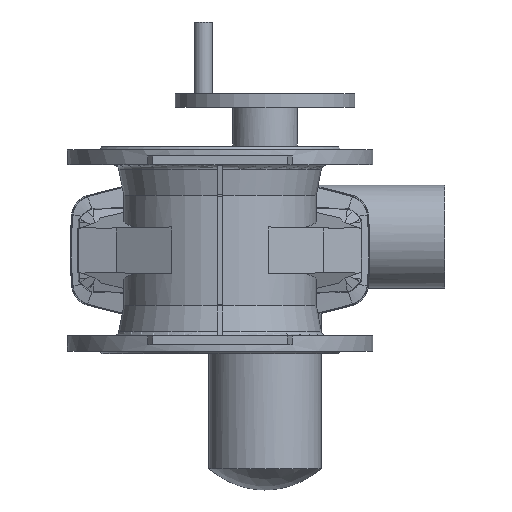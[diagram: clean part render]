
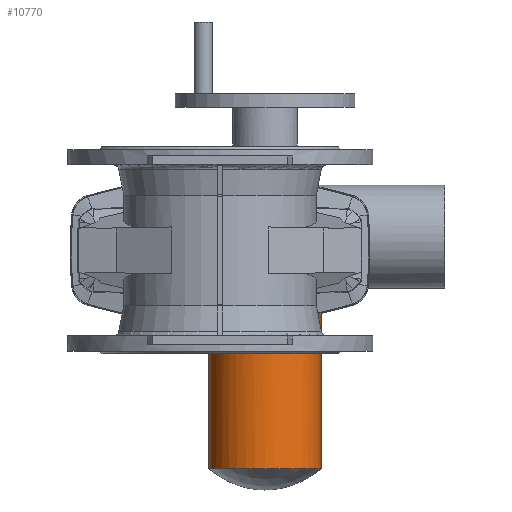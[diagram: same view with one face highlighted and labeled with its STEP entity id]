
A CAD part, front view. The second image highlights one B-rep face of the part: STEP entity #10770.
In plain terms, the highlighted cylindrical face has radius 62.5 mm (diameter 125 mm), a full revolution.
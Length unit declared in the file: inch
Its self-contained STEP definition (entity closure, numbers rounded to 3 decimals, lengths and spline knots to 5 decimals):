
#725 = CIRCLE ( 'NONE', #10399, 2.46063 ) ;
#734 = CIRCLE ( 'NONE', #10404, 2.46063 ) ;
#1066 = CARTESIAN_POINT ( 'NONE',  ( 0.66926, 23.19202, -2.36787 ) ) ;
#1115 = CARTESIAN_POINT ( 'NONE',  ( 0.66926, 19.01271, -2.36787 ) ) ;
#2162 = CARTESIAN_POINT ( 'NONE',  ( 1.9685, 21.10236, -2.36787 ) ) ;
#2163 = DIRECTION ( 'NONE',  ( 0., 0., 1. ) ) ;
#2164 = DIRECTION ( 'NONE',  ( 1., 0., 0. ) ) ;
#2190 = CARTESIAN_POINT ( 'NONE',  ( 1.9685, 21.10236, -9.56172 ) ) ;
#2191 = DIRECTION ( 'NONE',  ( 0., 0., 1. ) ) ;
#2192 = DIRECTION ( 'NONE',  ( 1., 0., 0. ) ) ;
#3286 = VERTEX_POINT ( 'NONE', #1066 ) ;
#3335 = VERTEX_POINT ( 'NONE', #1115 ) ;
#4068 = DIRECTION ( 'NONE',  ( 1., 0., 0. ) ) ;
#4072 = DIRECTION ( 'NONE',  ( 0., 0., 1. ) ) ;
#4075 = CARTESIAN_POINT ( 'NONE',  ( 1.9685, 21.10236, 0.59055 ) ) ;
#4614 = ORIENTED_EDGE ( 'NONE', *, *, #5429, .T. ) ;
#4615 = ORIENTED_EDGE ( 'NONE', *, *, #5418, .F. ) ;
#4616 = ORIENTED_EDGE ( 'NONE', *, *, #13162, .T. ) ;
#5018 = EDGE_LOOP ( 'NONE', ( #4615, #4616 ) ) ;
#5031 = EDGE_LOOP ( 'NONE', ( #4614 ) ) ;
#5418 = EDGE_CURVE ( 'NONE', #3335, #3286, #725, .T. ) ;
#5429 = EDGE_CURVE ( 'NONE', #6846, #6846, #734, .T. ) ;
#5973 = B_SPLINE_CURVE_WITH_KNOTS ( 'NONE', 3,
 ( #6989, #7005, #7012, #7013, #7014, #7015, #7016, #7017, #7018, #7019, #7020, #7021, #7022, #7023, #7024, #7025, #7026, #7027, #7028, #7029, #7030, #7031, #7032, #7033, #7034, #7035, #7036, #7037, #7038, #7039, #7040, #7041, #7042, #7043, #7044, #7045, #7046, #7047, #7048, #7049, #7050, #7051, #7052, #7053, #7054, #7055, #7056, #7057, #7058, #7059, #7060, #7061 ),
 .UNSPECIFIED., .F., .F.,
 ( 4, 2, 2, 2, 2, 2, 2, 2, 2, 2, 2, 2, 2, 2, 2, 2, 2, 2, 2, 2, 2, 2, 2, 2, 2, 4 ),
 ( 0.47887, 0.48677, 0.48875, 0.49072, 0.49467, 0.50257, 0.50454, 0.50652, 0.51047, 0.51837, 0.52232, 0.52626, 0.53416, 0.54206, 0.54404, 0.54601, 0.54996, 0.55786, 0.56181, 0.56576, 0.57366, 0.58155, 0.58945, 0.59735, 0.6013, 0.60525 ),
 .UNSPECIFIED. ) ;
#6846 = VERTEX_POINT ( 'NONE', #7878 ) ;
#6989 = CARTESIAN_POINT ( 'NONE',  ( 0.66926, 19.01271, -2.36787 ) ) ;
#7005 = CARTESIAN_POINT ( 'NONE',  ( 0.58341, 19.06609, -2.39213 ) ) ;
#7012 = CARTESIAN_POINT ( 'NONE',  ( 0.49975, 19.12541, -2.41075 ) ) ;
#7013 = CARTESIAN_POINT ( 'NONE',  ( 0.39857, 19.20745, -2.42822 ) ) ;
#7014 = CARTESIAN_POINT ( 'NONE',  ( 0.37849, 19.22427, -2.43143 ) ) ;
#7015 = CARTESIAN_POINT ( 'NONE',  ( 0.33902, 19.25841, -2.43725 ) ) ;
#7016 = CARTESIAN_POINT ( 'NONE',  ( 0.31958, 19.27578, -2.43987 ) ) ;
#7017 = CARTESIAN_POINT ( 'NONE',  ( 0.26214, 19.32874, -2.44693 ) ) ;
#7018 = CARTESIAN_POINT ( 'NONE',  ( 0.22502, 19.36522, -2.45058 ) ) ;
#7019 = CARTESIAN_POINT ( 'NONE',  ( 0.11722, 19.47809, -2.45889 ) ) ;
#7020 = CARTESIAN_POINT ( 'NONE',  ( 0.05005, 19.55793, -2.46091 ) ) ;
#7021 = CARTESIAN_POINT ( 'NONE',  ( -0.02781, 19.66357, -2.46052 ) ) ;
#7022 = CARTESIAN_POINT ( 'NONE',  ( -0.0431, 19.68503, -2.4603 ) ) ;
#7023 = CARTESIAN_POINT ( 'NONE',  ( -0.0729, 19.72829, -2.4596 ) ) ;
#7024 = CARTESIAN_POINT ( 'NONE',  ( -0.08741, 19.75011, -2.45912 ) ) ;
#7025 = CARTESIAN_POINT ( 'NONE',  ( -0.12983, 19.81612, -2.45737 ) ) ;
#7026 = CARTESIAN_POINT ( 'NONE',  ( -0.15661, 19.86087, -2.45577 ) ) ;
#7027 = CARTESIAN_POINT ( 'NONE',  ( -0.23249, 19.9973, -2.45015 ) ) ;
#7028 = CARTESIAN_POINT ( 'NONE',  ( -0.27718, 20.09118, -2.44528 ) ) ;
#7029 = CARTESIAN_POINT ( 'NONE',  ( -0.33532, 20.23645, -2.43775 ) ) ;
#7030 = CARTESIAN_POINT ( 'NONE',  ( -0.35322, 20.28562, -2.4352 ) ) ;
#7031 = CARTESIAN_POINT ( 'NONE',  ( -0.38597, 20.3855, -2.43023 ) ) ;
#7032 = CARTESIAN_POINT ( 'NONE',  ( -0.40067, 20.43571, -2.42783 ) ) ;
#7033 = CARTESIAN_POINT ( 'NONE',  ( -0.43982, 20.58707, -2.42115 ) ) ;
#7034 = CARTESIAN_POINT ( 'NONE',  ( -0.45937, 20.68898, -2.41741 ) ) ;
#7035 = CARTESIAN_POINT ( 'NONE',  ( -0.48555, 20.89481, -2.41228 ) ) ;
#7036 = CARTESIAN_POINT ( 'NONE',  ( -0.49218, 20.99873, -2.4109 ) ) ;
#7037 = CARTESIAN_POINT ( 'NONE',  ( -0.49211, 21.12992, -2.41092 ) ) ;
#7038 = CARTESIAN_POINT ( 'NONE',  ( -0.49168, 21.15627, -2.41101 ) ) ;
#7039 = CARTESIAN_POINT ( 'NONE',  ( -0.48997, 21.20875, -2.41136 ) ) ;
#7040 = CARTESIAN_POINT ( 'NONE',  ( -0.48869, 21.2349, -2.41161 ) ) ;
#7041 = CARTESIAN_POINT ( 'NONE',  ( -0.48364, 21.31313, -2.41263 ) ) ;
#7042 = CARTESIAN_POINT ( 'NONE',  ( -0.47862, 21.36497, -2.41364 ) ) ;
#7043 = CARTESIAN_POINT ( 'NONE',  ( -0.45873, 21.51954, -2.41753 ) ) ;
#7044 = CARTESIAN_POINT ( 'NONE',  ( -0.43902, 21.62135, -2.42129 ) ) ;
#7045 = CARTESIAN_POINT ( 'NONE',  ( -0.39976, 21.77222, -2.42798 ) ) ;
#7046 = CARTESIAN_POINT ( 'NONE',  ( -0.38506, 21.8222, -2.43037 ) ) ;
#7047 = CARTESIAN_POINT ( 'NONE',  ( -0.35236, 21.92153, -2.43533 ) ) ;
#7048 = CARTESIAN_POINT ( 'NONE',  ( -0.33429, 21.97102, -2.4379 ) ) ;
#7049 = CARTESIAN_POINT ( 'NONE',  ( -0.27575, 22.11675, -2.44545 ) ) ;
#7050 = CARTESIAN_POINT ( 'NONE',  ( -0.23084, 22.2107, -2.45031 ) ) ;
#7051 = CARTESIAN_POINT ( 'NONE',  ( -0.12942, 22.39241, -2.45775 ) ) ;
#7052 = CARTESIAN_POINT ( 'NONE',  ( -0.07292, 22.48016, -2.46034 ) ) ;
#7053 = CARTESIAN_POINT ( 'NONE',  ( 0.05208, 22.64932, -2.46087 ) ) ;
#7054 = CARTESIAN_POINT ( 'NONE',  ( 0.11917, 22.72883, -2.45879 ) ) ;
#7055 = CARTESIAN_POINT ( 'NONE',  ( 0.26235, 22.87844, -2.44766 ) ) ;
#7056 = CARTESIAN_POINT ( 'NONE',  ( 0.33839, 22.94847, -2.43862 ) ) ;
#7057 = CARTESIAN_POINT ( 'NONE',  ( 0.45901, 23.04628, -2.41778 ) ) ;
#7058 = CARTESIAN_POINT ( 'NONE',  ( 0.50047, 23.07777, -2.40958 ) ) ;
#7059 = CARTESIAN_POINT ( 'NONE',  ( 0.58416, 23.13729, -2.39067 ) ) ;
#7060 = CARTESIAN_POINT ( 'NONE',  ( 0.6265, 23.16543, -2.37995 ) ) ;
#7061 = CARTESIAN_POINT ( 'NONE',  ( 0.66926, 23.19202, -2.36787 ) ) ;
#7878 = CARTESIAN_POINT ( 'NONE',  ( 4.42913, 21.10236, -9.56172 ) ) ;
#10399 = AXIS2_PLACEMENT_3D ( 'NONE', #2162, #2163, #2164 ) ;
#10404 = AXIS2_PLACEMENT_3D ( 'NONE', #2190, #2191, #2192 ) ;
#10608 = AXIS2_PLACEMENT_3D ( 'NONE', #4075, #4072, #4068 ) ;
#10770 = ADVANCED_FACE ( 'NONE', ( #11834, #11839 ), #11841, .T. ) ;
#11834 = FACE_OUTER_BOUND ( 'NONE', #5031, .T. ) ;
#11839 = FACE_OUTER_BOUND ( 'NONE', #5018, .T. ) ;
#11841 = CYLINDRICAL_SURFACE ( 'NONE', #10608, 2.46063 ) ;
#13162 = EDGE_CURVE ( 'NONE', #3335, #3286, #5973, .T. ) ;
